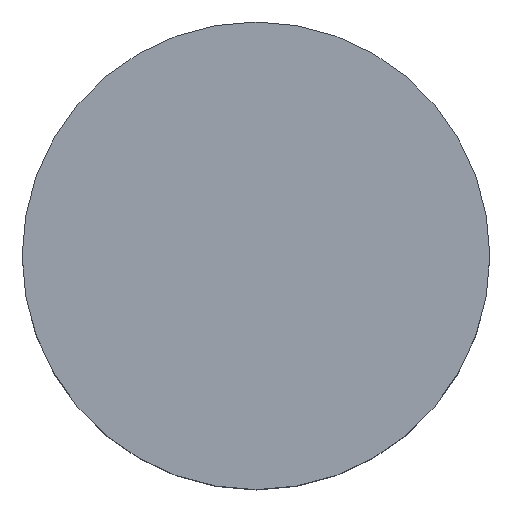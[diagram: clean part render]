
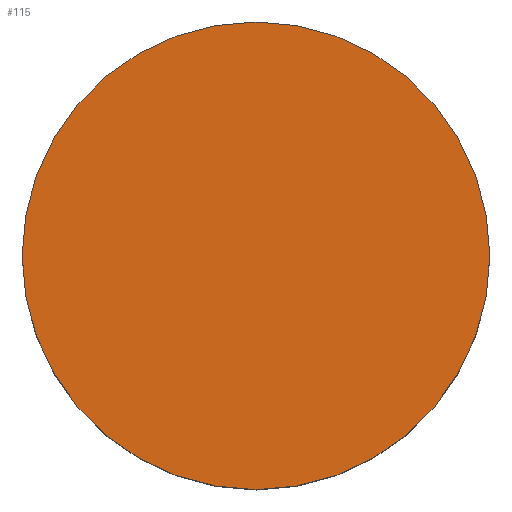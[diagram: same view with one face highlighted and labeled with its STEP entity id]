
A CAD part, top view. The second image highlights one B-rep face of the part: STEP entity #115.
In plain terms, the highlighted planar face has unit normal (0, 0, 1).
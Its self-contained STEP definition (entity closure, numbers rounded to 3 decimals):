
#115=ADVANCED_FACE('',(#129),#126,.T.);
#126=PLANE('',#242);
#129=FACE_OUTER_BOUND('',#139,.T.);
#139=EDGE_LOOP('',(#151,#152));
#151=ORIENTED_EDGE('',*,*,#203,.F.);
#152=ORIENTED_EDGE('',*,*,#204,.F.);
#191=VERTEX_POINT('',#329);
#192=VERTEX_POINT('',#330);
#203=EDGE_CURVE('',#191,#192,#223,.T.);
#204=EDGE_CURVE('',#192,#191,#224,.T.);
#223=CIRCLE('',#240,5.5);
#224=CIRCLE('',#241,5.5);
#240=AXIS2_PLACEMENT_3D('',#328,#269,#270);
#241=AXIS2_PLACEMENT_3D('',#331,#271,#272);
#242=AXIS2_PLACEMENT_3D('',#332,#273,#274);
#269=DIRECTION('',(0.,0.,-1.));
#270=DIRECTION('',(-1.,0.,0.));
#271=DIRECTION('',(0.,0.,-1.));
#272=DIRECTION('',(1.,0.,0.));
#273=DIRECTION('',(0.,0.,1.));
#274=DIRECTION('',(1.,0.,0.));
#328=CARTESIAN_POINT('',(0.,0.,5.));
#329=CARTESIAN_POINT('',(0.,5.5,5.));
#330=CARTESIAN_POINT('',(0.,-5.5,5.));
#331=CARTESIAN_POINT('',(0.,0.,5.));
#332=CARTESIAN_POINT('',(0.,0.,5.));
